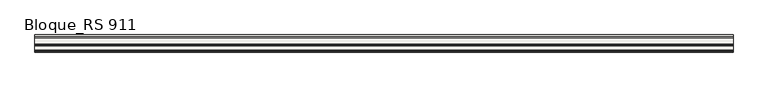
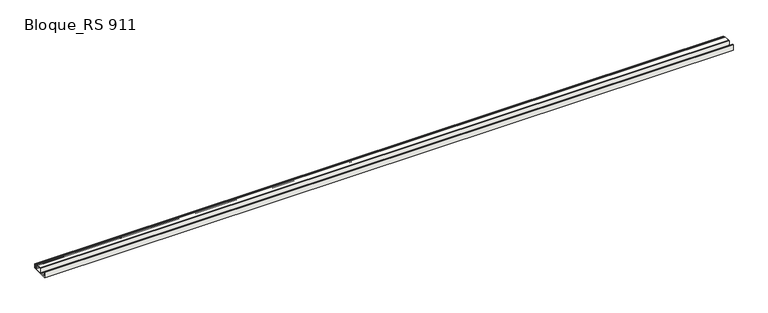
"""IFC4 building model written with IfcOpenShell, lengths in millimetres: slab geometry, ROSA GRES_RS 911 : Bloque_RS 911."""

from ifc_helpers import new_model, si_unit, point, frame, frame_2d, origin, place, context, project, spatial, polyline, circle_curve, trimmed, segment, composite_curve, outline, extrude, source, transform, mapped, element, save


def bloque_rs_911_f4706125(model_context):
    return source(origin(), model_context, "Body", "SweptSolid", [
        extrude(outline(composite_curve([segment(polyline([(-12.836227, 1.7539108), (-626.836227, 1.7539108), (-626.836227, 216.3460936), (-616.836227, 216.3460936), (-616.836227, 206.3460936), (-598.836227, 206.3460936), (-587.1239808, 55.2086635)]), True, "CONTINUOUS"), segment(trimmed(circle_curve(frame_2d((-567.1837649, 56.7539108)), 20.0), [point((-587.1239808, 55.2086635))], [point((-567.1837649, 36.7539108))], True, "CARTESIAN"), True, "CONTINUOUS"), segment(polyline([(-567.1837649, 36.7539108), (-413.4886891, 36.7539108)]), True, "CONTINUOUS"), segment(trimmed(circle_curve(frame_2d((-413.4886891, 56.7539108)), 20.0), [point((-413.4886891, 36.7539108))], [point((-393.5484732, 55.2086635))], True, "CARTESIAN"), True, "CONTINUOUS"), segment(polyline([(-393.5484732, 55.2086635), (-381.836227, 206.3460936), (-363.836227, 206.3460936), (-363.836227, 216.3460936), (-343.836227, 216.3460936), (-343.836227, 214.7181867), (-123.836227, 196.8112099), (-125.1172881, 181.0724591), (-72.836227, 176.8170239), (-72.836227, 173.8170239), (-67.836227, 173.8170239), (-67.836227, 176.4100471), (-12.836227, 171.9333029), (-12.836227, 1.7539108)]), True, "CONTINUOUS")], self_intersect=False), holes=[composite_curve([segment(polyline([(-67.836227, 140.6431347), (-67.836227, 36.7539108)]), True, "CONTINUOUS"), segment(trimmed(circle_curve(frame_2d((-59.836227, 36.7539108)), 8.0), [point((-67.836227, 36.7539108))], [point((-59.836227, 28.7539108))], True, "CARTESIAN"), True, "CONTINUOUS"), segment(polyline([(-59.836227, 28.7539108), (-47.836227, 28.7539108)]), True, "CONTINUOUS"), segment(trimmed(circle_curve(frame_2d((-47.836227, 36.7539108)), 8.0), [point((-47.836227, 28.7539108))], [point((-39.836227, 36.7539108))], True, "CARTESIAN"), True, "CONTINUOUS"), segment(polyline([(-39.836227, 36.7539108), (-39.836227, 139.6663905)]), True, "CONTINUOUS"), segment(trimmed(circle_curve(frame_2d((-47.836227, 139.6663905)), 8.0), [point((-39.836227, 139.6663905))], [point((-47.1872106, 147.6400206))], True, "CARTESIAN"), True, "CONTINUOUS"), segment(polyline([(-47.1872106, 147.6400206), (-59.1872106, 148.6167648)]), True, "CONTINUOUS"), segment(trimmed(circle_curve(frame_2d((-59.836227, 140.6431347)), 8.0), [point((-59.1872106, 148.6167648))], [point((-67.836227, 140.6431347))], True, "CARTESIAN"), True, "CONTINUOUS")], self_intersect=False), composite_curve([segment(polyline([(-180.4105134, 169.2541533), (-334.6837717, 181.811279)]), True, "CONTINUOUS"), segment(trimmed(circle_curve(frame_2d((-336.3063127, 161.8772036)), 20.0), [point((-334.6837717, 181.811279))], [point((-356.3063127, 161.8772036))], True, "CARTESIAN"), True, "CONTINUOUS"), segment(polyline([(-356.3063127, 161.8772036), (-356.3063127, 28.7539108), (-102.3063127, 28.7539108), (-102.3063127, 84.534333)]), True, "CONTINUOUS"), segment(trimmed(circle_curve(frame_2d((-187.3063127, 84.534333)), 85.0), [point((-102.3063127, 84.534333))], [point((-180.4105134, 169.2541533))], True, "CARTESIAN"), True, "CONTINUOUS")], self_intersect=False)]), frame((0.0, 0.0, 0.0), z_axis=(1.0, 0.0, 0.0), x_axis=(0.0, 1.0, 0.0)), (0.0, 0.0, 1.0), 24991.25),
    ])


if __name__ == "__main__":
    model = new_model("IFC4")
    model_context = context("Model", 3, world=origin())
    ifc_project = project(units=[si_unit("LENGTHUNIT", "METRE", prefix="MILLI")], contexts=[model_context])
    site = spatial("IfcSite", under=ifc_project)
    building = spatial("IfcBuilding", under=site)
    placement = place(None, origin())
    bloque_rs_911_shape = bloque_rs_911_f4706125(model_context)
    element("IfcSlab", 1, ObjectType="ROSA GRES_RS 911 : Bloque_RS 911", at=placement, inside=building, context=model_context, shape_type="MappedRepresentation", body=[
        mapped(bloque_rs_911_shape, transform((0.0, 0.0, 0.0), x_axis=(1.0, 0.0, 0.0), y_axis=(0.0, 1.0, 0.0), z_axis=(0.0, 0.0, 1.0))),
    ])
    save(model, "model.ifc")
